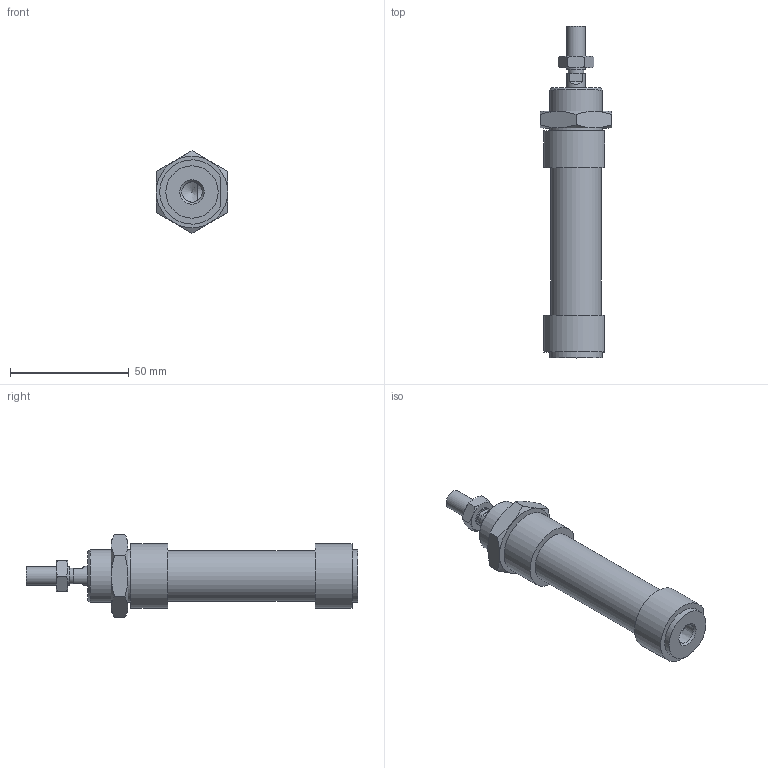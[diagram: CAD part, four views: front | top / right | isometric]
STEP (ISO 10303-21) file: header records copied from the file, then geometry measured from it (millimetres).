
FILE_DESCRIPTION((''),'2;1');
FILE_NAME('I:\Area Tecnica\Disegni\VARIE-3D\Componenti\1280\1281_##_####_#\1281_20_0025.iam.stp','2009-06-04T09:39:01',(''),(''),'Autodesk Inventor 2010','Autodesk Inventor 2010','');
FILE_SCHEMA(('AUTOMOTIVE_DESIGN { 1 0 10303 214 1 1 1 1 }'));
Length unit declared in the file: millimetre
Products named in the file (5): 1281_20_0025; C1281_20_25; S1280_20_25; 1200_20_05; 1200_20_06
Assembly tree (4 placements, depth 2):
  1281_20_0025
    C1281_20_25
    S1280_20_25
    1200_20_05
    1200_20_06
Bounding box: 30 x 139.5 x 34.64 mm (x, y, z)
Volume: 50142.9 mm3; surface area: 16398.9 mm2
Topology: 4 solids, 4 shells, 86 faces, 185 edges, 112 vertices
Faces by surface type: plane 36, cone 26, bspline 15, cylinder 9
Full cylindrical faces by diameter (mm): 6.5 x1, 8 x3, 21.2 x1, 22 x2
Entity records: 2537 total; most frequent: CARTESIAN_POINT 698, DIRECTION 332, ORIENTED_EDGE 310, EDGE_CURVE 155, AXIS2_PLACEMENT_3D 148, EDGE_LOOP 120, VERTEX_POINT 103, STYLED_ITEM 90
